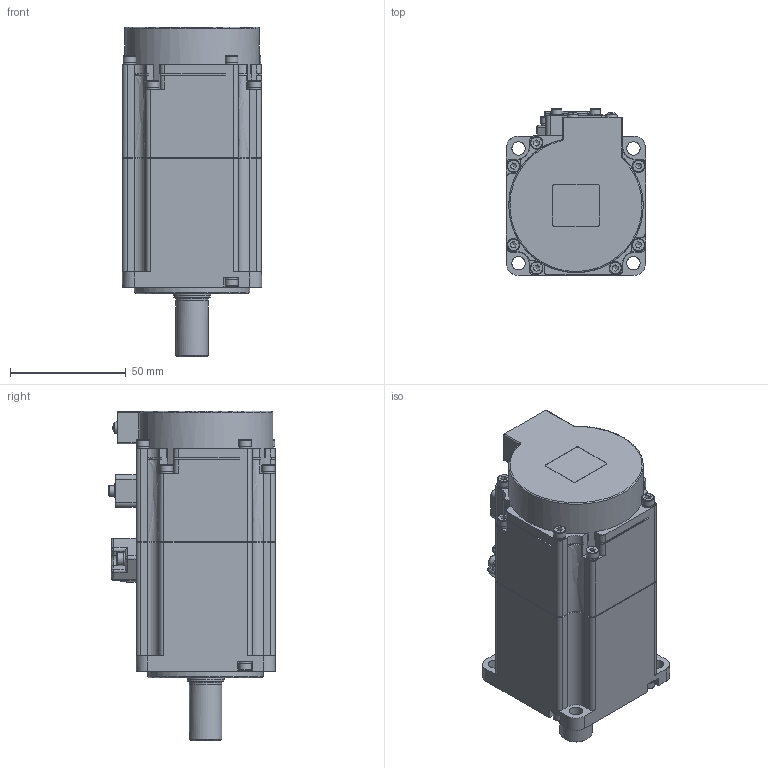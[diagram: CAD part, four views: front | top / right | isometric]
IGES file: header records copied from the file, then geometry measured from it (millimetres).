
Global section: file name: L020B; native system: Autodesk Inventor 2014; preprocessor: unknown; author: Mejust; date: 20160718.115606; units: millimetre
Bounding box: 60 x 71.8 x 142 mm (x, y, z)
Volume: 104746.8 mm3; surface area: 72047.9 mm2
Topology: 2 solids, 45 shells, 906 faces, 2353 edges, 1579 vertices
Faces by surface type: bspline 906
